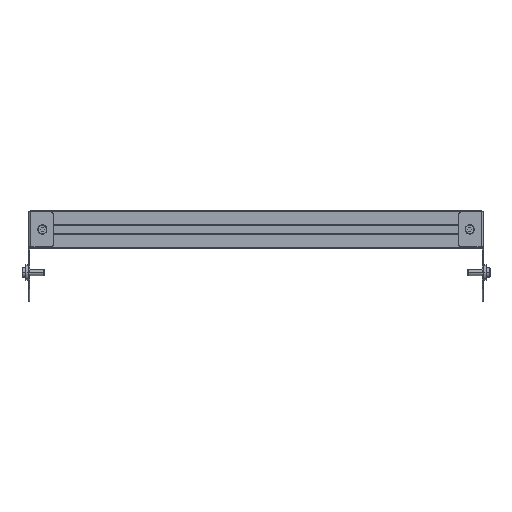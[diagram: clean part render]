
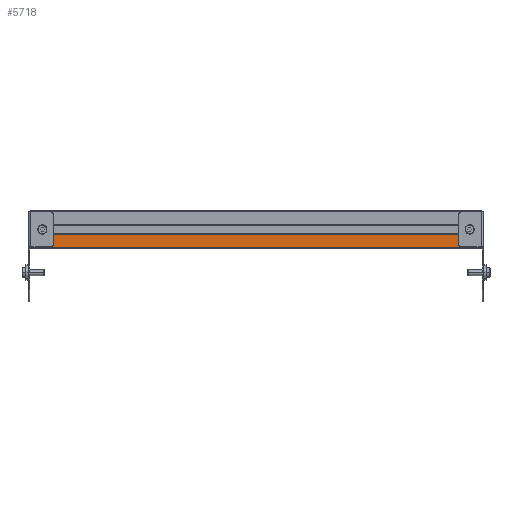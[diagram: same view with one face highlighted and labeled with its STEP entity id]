
A CAD part, top view. The second image highlights one B-rep face of the part: STEP entity #5718.
In plain terms, the highlighted planar face has unit normal (0, 0, 1) as drawn and (0, -1, 0) by its records, which use the part's own axes.
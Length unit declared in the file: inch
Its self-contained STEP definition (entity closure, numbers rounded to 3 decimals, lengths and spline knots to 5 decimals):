
#455 = CARTESIAN_POINT ( 'NONE',  ( 0.75127, -0.29528, 9.5 ) ) ;
#774 = CARTESIAN_POINT ( 'NONE',  ( -0.78127, -0.29528, 9.5 ) ) ;
#954 = CARTESIAN_POINT ( 'NONE',  ( -0.78127, -0.29528, -9.5 ) ) ;
#1004 = LINE ( 'NONE', #455, #2045 ) ;
#1113 = CARTESIAN_POINT ( 'NONE',  ( 0.75127, -0.29528, 9.5 ) ) ;
#1540 = VECTOR ( 'NONE', #6047, 39.37008 ) ;
#1576 = ORIENTED_EDGE ( 'NONE', *, *, #5825, .F. ) ;
#2045 = VECTOR ( 'NONE', #6957, 39.37008 ) ;
#2134 = CARTESIAN_POINT ( 'NONE',  ( -0.78127, -0.29528, 9.5 ) ) ;
#2742 = ORIENTED_EDGE ( 'NONE', *, *, #8042, .T. ) ;
#2810 = ORIENTED_EDGE ( 'NONE', *, *, #7767, .F. ) ;
#2852 = CARTESIAN_POINT ( 'NONE',  ( 0.21654, -0.29528, -9.50004 ) ) ;
#2972 = LINE ( 'NONE', #774, #7172 ) ;
#3177 = ORIENTED_EDGE ( 'NONE', *, *, #4140, .T. ) ;
#3396 = PLANE ( 'NONE',  #8193 ) ;
#3533 = LINE ( 'NONE', #2852, #8008 ) ;
#4140 = EDGE_CURVE ( 'NONE', #8182, #5755, #7278, .T. ) ;
#4389 = EDGE_LOOP ( 'NONE', ( #3177, #2742, #2810, #1576 ) ) ;
#5718 = ADVANCED_FACE ( 'NONE', ( #6996 ), #3396, .F. ) ;
#5755 = VERTEX_POINT ( 'NONE', #6222 ) ;
#5825 = EDGE_CURVE ( 'NONE', #8182, #7343, #3533, .T. ) ;
#6019 = DIRECTION ( 'NONE',  ( 0., 0., 1. ) ) ;
#6047 = DIRECTION ( 'NONE',  ( 1., 0., 0. ) ) ;
#6222 = CARTESIAN_POINT ( 'NONE',  ( 0.75127, -0.29528, -9.5 ) ) ;
#6333 = CARTESIAN_POINT ( 'NONE',  ( 0.21654, -0.29528, -9.5 ) ) ;
#6853 = DIRECTION ( 'NONE',  ( 0., 0., 1. ) ) ;
#6957 = DIRECTION ( 'NONE',  ( 0., 0., 1. ) ) ;
#6996 = FACE_OUTER_BOUND ( 'NONE', #4389, .T. ) ;
#7137 = CARTESIAN_POINT ( 'NONE',  ( 0.21654, -0.29528, 9.5 ) ) ;
#7172 = VECTOR ( 'NONE', #7341, 39.37008 ) ;
#7278 = LINE ( 'NONE', #954, #1540 ) ;
#7341 = DIRECTION ( 'NONE',  ( 1., 0., 0. ) ) ;
#7343 = VERTEX_POINT ( 'NONE', #7137 ) ;
#7601 = VERTEX_POINT ( 'NONE', #1113 ) ;
#7767 = EDGE_CURVE ( 'NONE', #7343, #7601, #2972, .T. ) ;
#7949 = DIRECTION ( 'NONE',  ( 0., 1., 0. ) ) ;
#8008 = VECTOR ( 'NONE', #6853, 39.37008 ) ;
#8042 = EDGE_CURVE ( 'NONE', #5755, #7601, #1004, .T. ) ;
#8182 = VERTEX_POINT ( 'NONE', #6333 ) ;
#8193 = AXIS2_PLACEMENT_3D ( 'NONE', #2134, #7949, #6019 ) ;
